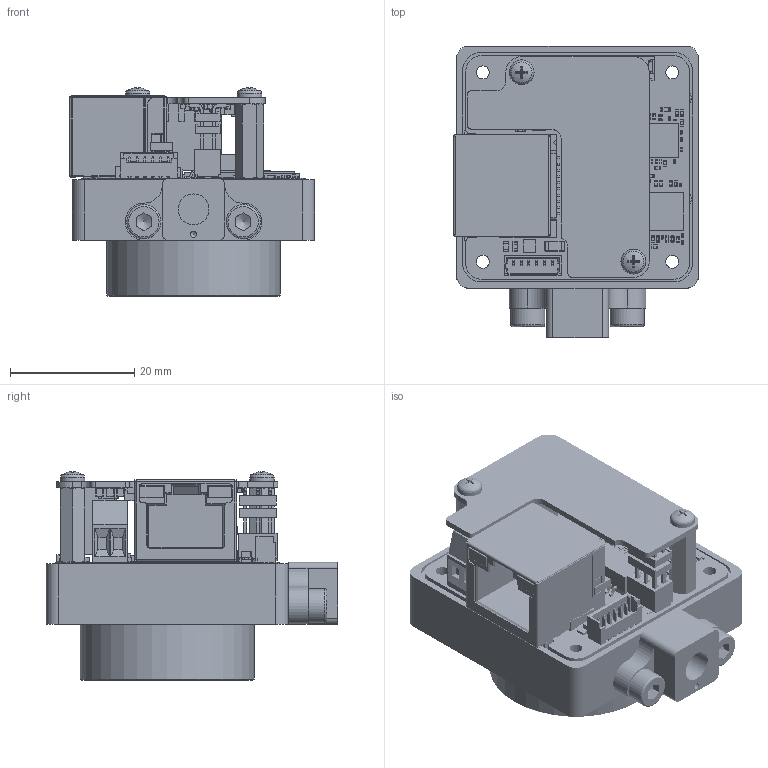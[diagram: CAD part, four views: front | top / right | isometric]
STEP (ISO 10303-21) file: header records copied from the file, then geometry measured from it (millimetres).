
FILE_DESCRIPTION(/* description */ (''),/* implementation_level */ '2;1');
FILE_NAME(/* name */ 'KSM_308-24-06-00-00_ZB C-MountKamera_GigE-4SB_AR2020_PoE add-on.stp',/* time_stamp */ '2025-06-06T11:12:25+02:00',/* author */ ('khw'),/* organization */ ('TIS/ Germany'),/* preprocessor_version */ 'ST-DEVELOPER v20',/* originating_system */ 'Autodesk Inventor 2025',/* authorisation */ '520025 mm^3');
FILE_SCHEMA (('AUTOMOTIVE_DESIGN { 1 0 10303 214 3 1 1 }'));
Products named in the file (4): KSM_308-24-06-00-00_ZB C-MountKamera_GigE-4SB_AR2020_PoE add-on; 2_308-24-06-00-00_ZB C-MountKamera_GigE-4SB_AR2020_PoE add-on; TripodAdapter 14-20-UNC; Zylinderschraube M3x6
Assembly tree (4 placements, depth 2):
  KSM_308-24-06-00-00_ZB C-MountKamera_GigE-4SB_AR2020_PoE add-on
    2_308-24-06-00-00_ZB C-MountKamera_GigE-4SB_AR2020_PoE add-on
    TripodAdapter 14-20-UNC
    Zylinderschraube M3x6  x2
Bounding box: 39.49 x 47 x 33.59 mm (x, y, z)
Volume: 18790 mm3; surface area: 17318.7 mm2
Topology: 12 solids, 12 shells, 10638 faces, 25649 edges, 14133 vertices
Faces by surface type: plane 4587, cylinder 4068, sphere 946, torus 942, cone 61, bspline 34
Full cylindrical faces by diameter (mm): 0.3 x1, 0.5 x6, 0.739 x1, 1 x1, 1.05 x2, 1.2 x2, 1.567 x2, 2.032 x2, 2.1 x4, 2.459 x8, 3 x2, 3.2 x2, 4.978 x1, 5.5 x2, 24.536 x1, 28 x1
Entity records: 307612 total; most frequent: DIRECTION 54033, CARTESIAN_POINT 51135, ORIENTED_EDGE 49324, EDGE_CURVE 24662, AXIS2_PLACEMENT_3D 18941, LINE 16151, VECTOR 16151, VERTEX_POINT 14109
